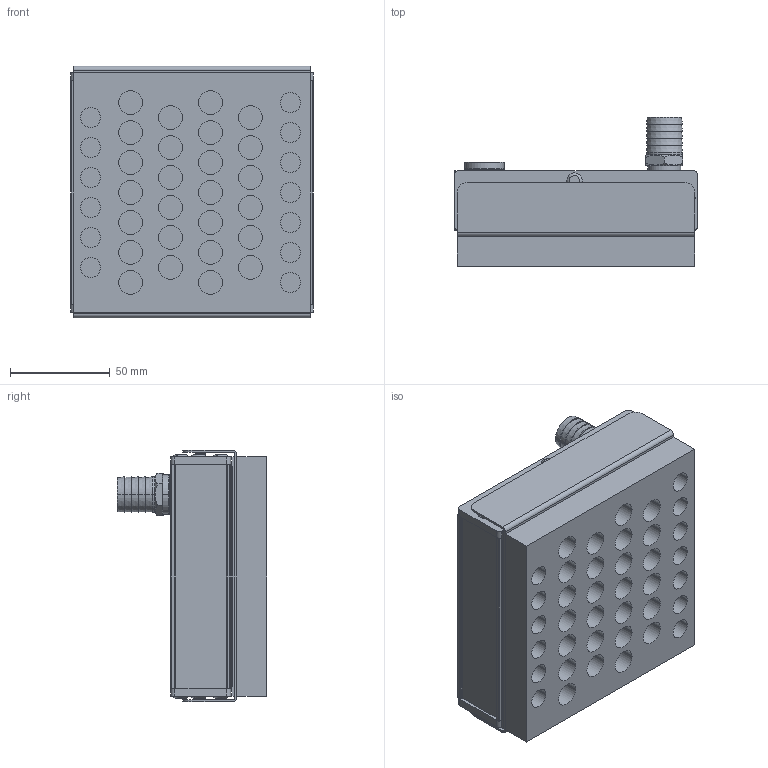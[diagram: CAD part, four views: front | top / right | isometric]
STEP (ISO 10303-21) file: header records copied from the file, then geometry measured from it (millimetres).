
FILE_DESCRIPTION (( 'STEP AP214' ), '1' );
FILE_NAME ('3-9-23756.STEP', '2012-08-30T06:29:50', ( 'cad' ), ( 'Microsoft' ), 'SwSTEP 2.0', 'SolidWorks 2012', '' );
FILE_SCHEMA (( 'AUTOMOTIVE_DESIGN' ));
Length unit declared in the file: millimetre
Products named in the file (1): 3-9-23756
Bounding box: 121.5 x 74.73 x 126 mm (x, y, z)
Volume: 640458.1 mm3; surface area: 93202.8 mm2
Topology: 1 solids, 1 shells, 322 faces, 702 edges, 446 vertices
Faces by surface type: plane 146, cylinder 132, torus 26, cone 18
Entity records: 11356 total; most frequent: CARTESIAN_POINT 1711, DIRECTION 1698, ORIENTED_EDGE 1404, EDGE_CURVE 702, AXIS2_PLACEMENT_3D 689, VERTEX_POINT 446, EDGE_LOOP 390, CIRCLE 366
